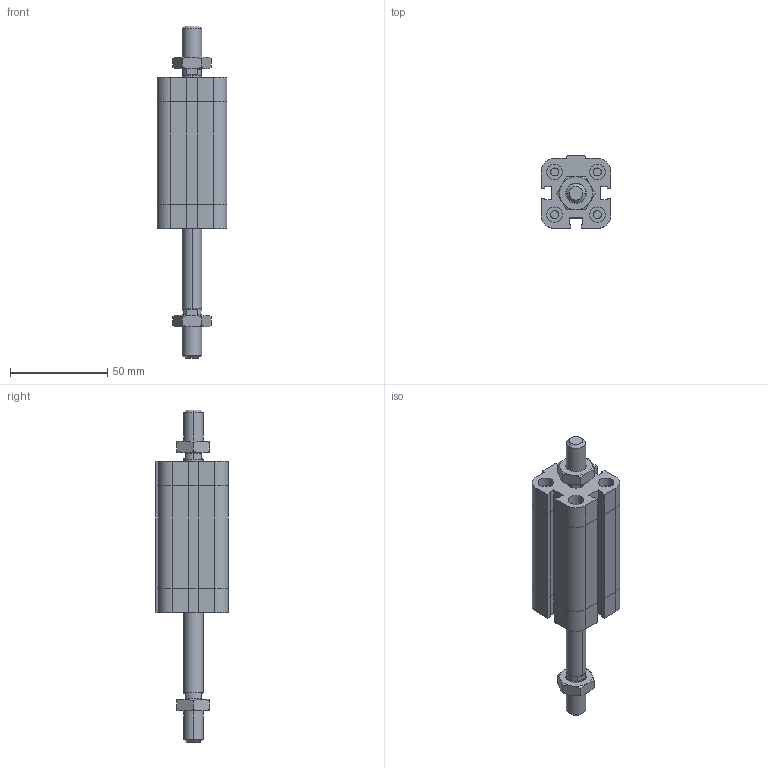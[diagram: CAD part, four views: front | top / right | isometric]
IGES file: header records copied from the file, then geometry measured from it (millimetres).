
Global section: file name: No Iges File Name specified; native system: Autodesk Inventor 2009; preprocessor: AutoDesk Inventor Iges Exporter R2009; author: maffial1; date: 20090420.200846; units: millimetre
Bounding box: 36 x 37.5 x 171 mm (x, y, z)
Volume: 96809.3 mm3; surface area: 28232.9 mm2
Topology: 4 solids, 4 shells, 260 faces, 574 edges, 342 vertices
Faces by surface type: plane 129, bspline 51, cone 38, cylinder 22, revolution 20
